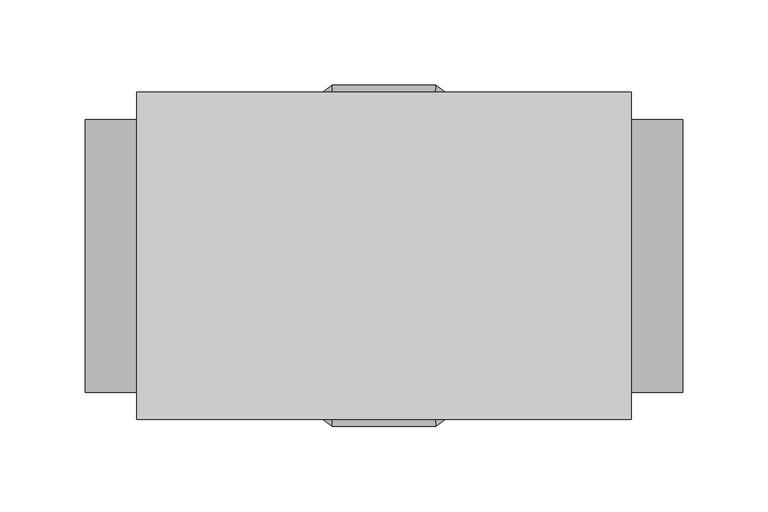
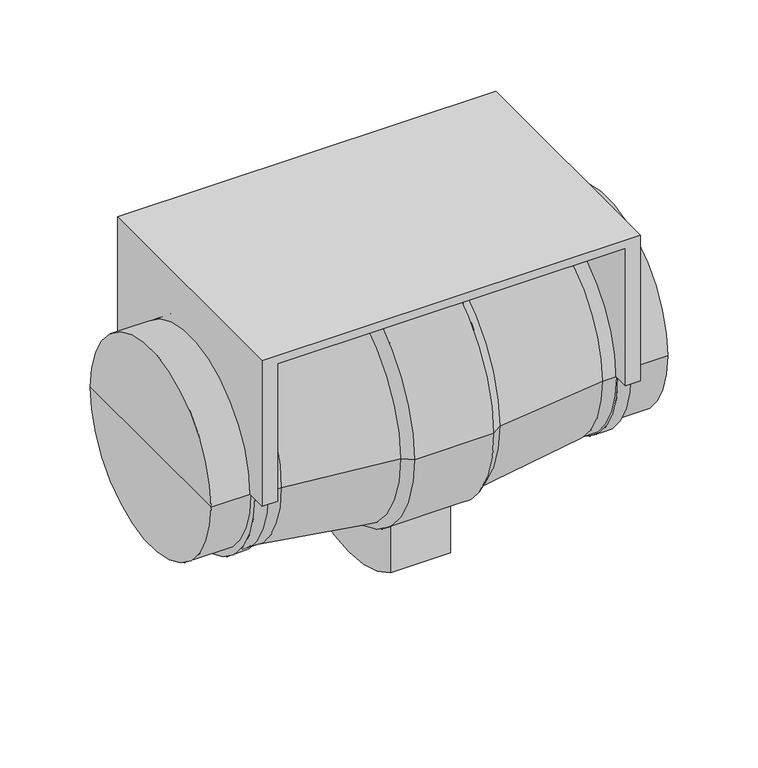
"""IFC4 building model written with IfcOpenShell, lengths in millimetres: unitary equipment geometry, VE-Wentylator-ParaForma-Harmann-ML-Nawiewny : 160/550."""

from ifc_helpers import new_model, si_unit, point, frame, origin, origin_2d, place, context, project, spatial, polyline, circle_curve, trimmed, segment, composite_curve, outline, extrude, source, transform, mapped, element, save
from ifc_brep_helpers import plane_surface, cylinder_surface, revolved_surface, advanced_brep


def unitary_equipment_5950cc30(model_context):
    return source(origin(), model_context, "Body", "SolidModel", [
        extrude(outline(composite_curve([segment(trimmed(circle_curve(origin_2d(), 80.0), [point((-80.0, 0.0))], [point((80.0, 0.0))], True, "CARTESIAN"), True, "CONTINUOUS"), segment(polyline([(80.0, 0.0), (85.0, 0.0)]), True, "CONTINUOUS"), segment(trimmed(circle_curve(origin_2d(), 85.0), [point((85.0, 0.0))], [point((-85.0, 0.0))], False, "CARTESIAN"), True, "CONTINUOUS"), segment(polyline([(-85.0, 0.0), (-80.0, 0.0)]), True, "CONTINUOUS")], self_intersect=False)), frame((134.1, 0.0, 0.0), z_axis=(1.0, 0.0, 0.0), x_axis=(0.0, 1.0, 0.0)), (0.0, 0.0, 1.0), 10.0),
        extrude(outline(composite_curve([segment(trimmed(circle_curve(origin_2d(), 80.0), [point((-80.0, 0.0))], [point((80.0, 0.0))], True, "CARTESIAN"), True, "CONTINUOUS"), segment(polyline([(80.0, 0.0), (85.0, 0.0)]), True, "CONTINUOUS"), segment(trimmed(circle_curve(origin_2d(), 85.0), [point((85.0, 0.0))], [point((-85.0, 0.0))], False, "CARTESIAN"), True, "CONTINUOUS"), segment(polyline([(-85.0, 0.0), (-80.0, 0.0)]), True, "CONTINUOUS")], self_intersect=False)), frame((-144.1, 0.0, 0.0), z_axis=(1.0, 0.0, 0.0), x_axis=(0.0, 1.0, 0.0)), (0.0, 0.0, 1.0), 10.0),
        advanced_brep(
        [(-145.0, 96.0, 0.0), (-145.0, 80.0, 0.0), (-145.0, -80.0, 0.0), (-145.0, -96.0, 0.0), (-145.0, -96.0, 118.0), (-145.0, 96.0, 118.0), (-133.3, -96.0, 0.0), (-133.3, -80.0, 0.0), (-133.3, 80.0, 0.0), (-133.3, 96.0, 0.0), (-133.3, 96.0, 111.3), (-133.3, -96.0, 111.3), (133.3, -96.0, 111.3), (133.3, 96.0, 111.3), (133.3, -96.0, 0.0), (145.0, -96.0, 0.0), (145.0, -96.0, 118.0), (145.0, 96.0, 118.0), (145.0, 96.0, 0.0), (133.3, 96.0, 0.0), (133.3, 80.0, 0.0), (133.3, -80.0, 0.0), (145.0, -80.0, 0.0), (145.0, 80.0, 0.0)],
        [
            (0, 1),
            (1, 2, circle_curve(frame((-145.0, 0.0, 0.0), z_axis=(1.0, 0.0, 0.0), x_axis=(0.0, 1.0, 0.0)), 80.0)),
            (2, 3),
            (3, 4),
            (4, 5),
            (5, 0),
            (6, 7),
            (7, 8, circle_curve(frame((-133.3, 0.0, 0.0), z_axis=(-1.0, 0.0, 0.0), x_axis=(0.0, 1.0, 0.0)), 80.0)),
            (8, 9),
            (9, 10),
            (10, 11),
            (11, 6),
            (12, 11),
            (10, 13),
            (13, 12),
            (3, 6),
            (12, 14),
            (14, 15),
            (15, 16),
            (16, 4),
            (16, 17),
            (17, 5),
            (17, 18),
            (18, 19),
            (19, 13),
            (9, 0),
            (8, 1),
            (7, 2),
            (19, 20),
            (20, 21, circle_curve(frame((133.3, 0.0, 0.0), z_axis=(1.0, 0.0, 0.0), x_axis=(0.0, 1.0, 0.0)), 80.0)),
            (21, 14),
            (15, 22),
            (22, 23, circle_curve(frame((145.0, 0.0, 0.0), z_axis=(-1.0, 0.0, 0.0), x_axis=(0.0, 1.0, 0.0)), 80.0)),
            (23, 18),
            (23, 20),
            (22, 21),
        ],
        [
            plane_surface(frame((-145.0, 0.0, 0.0), z_axis=(-1.0, 0.0, 0.0), x_axis=(0.0, 0.0, 1.0))),
            plane_surface(frame((-133.3, 0.0, 0.0), z_axis=(1.0, 0.0, 0.0), x_axis=(0.0, 0.0, 1.0))),
            plane_surface(frame((-133.3, 96.0, 111.3), z_axis=(0.0, 0.0, -1.0), x_axis=(1.0, 0.0, 0.0))),
            plane_surface(frame((-145.0, -96.0, 0.0), z_axis=(0.0, -1.0, 0.0), x_axis=(1.0, 0.0, 0.0))),
            plane_surface(frame((-145.0, -96.0, 118.0), z_axis=(0.0, 0.0, 1.0), x_axis=(1.0, 0.0, 0.0))),
            plane_surface(frame((-145.0, 96.0, 118.0), z_axis=(0.0, 1.0, 0.0), x_axis=(1.0, 0.0, 0.0))),
            plane_surface(frame((-145.0, 96.0, 0.0), z_axis=(0.0, 0.0, -1.0), x_axis=(1.0, 0.0, 0.0))),
            revolved_surface(polyline([(-133.3, 80.0, 0.0), (-145.0, 80.0, 0.0)]), (-145.0, 0.0, 0.0), (1.0, 0.0, 0.0)),
            plane_surface(frame((-145.0, -80.0, 0.0), z_axis=(0.0, 0.0, -1.0), x_axis=(1.0, 0.0, 0.0))),
            plane_surface(frame((133.3, 0.0, 0.0), z_axis=(-1.0, 0.0, 0.0), x_axis=(0.0, 0.0, 1.0))),
            plane_surface(frame((145.0, 0.0, 0.0), z_axis=(1.0, 0.0, 0.0), x_axis=(0.0, 0.0, 1.0))),
            plane_surface(frame((133.3, 96.0, 0.0), z_axis=(0.0, 0.0, -1.0), x_axis=(1.0, 0.0, 0.0))),
            revolved_surface(polyline([(145.0, 80.0, 0.0), (133.3, 80.0, 0.0)]), (133.3, 0.0, 0.0), (1.0, 0.0, 0.0)),
            plane_surface(frame((133.3, -80.0, 0.0), z_axis=(0.0, 0.0, -1.0), x_axis=(1.0, 0.0, 0.0))),
        ],
        [
            (0, [[1, 2, 3, 4, 5, 6]]),
            (1, [[7, 8, 9, 10, 11, 12]]),
            (2, [[13, -11, 14, 15]]),
            (3, [[-4, 16, -12, -13, 17, 18, 19, 20]]),
            (4, [[-5, -20, 21, 22]]),
            (5, [[-6, -22, 23, 24, 25, -14, -10, 26]]),
            (6, [[-1, -26, -9, 27]]),
            (7, [[-2, -27, -8, 28]]),
            (8, [[-3, -28, -7, -16]]),
            (9, [[29, 30, 31, -17, -15, -25]]),
            (10, [[-23, -21, -19, 32, 33, 34]]),
            (11, [[-29, -24, -34, 35]]),
            (12, [[-30, -35, -33, 36]]),
            (13, [[-31, -36, -32, -18]]),
        ],
    ),
        advanced_brep(
        [(-22.9, 55.0, -121.5), (-22.9, -55.0, -121.5), (-22.9, -55.0, -83.5164654), (-22.9, 55.0, -83.5164654), (22.9, -55.0, -121.5), (22.9, 55.0, -121.5), (22.9, 55.0, -83.5164654), (22.9, -55.0, -83.5164654), (175.0, -80.0, 0.0), (175.0, 80.0, 0.0), (175.0, 0.0, 0.0), (133.3, -80.0, 0.0), (133.3, 80.0, 0.0), (30.3, -100.0, 0.0), (30.3, 100.0, 0.0), (37.9, 94.6, 0.0), (37.9, -94.6, 0.0), (-30.3, -100.0, 0.0), (-30.3, 100.0, 0.0), (-37.9, -94.6, 0.0), (-37.9, 94.6, 0.0), (-175.0, -80.0, 0.0), (-175.0, 80.0, 0.0), (-133.3, 80.0, 0.0), (-133.3, -80.0, 0.0), (-175.0, 0.0, 0.0), (133.3, -83.9, 0.0), (133.3, 83.9, 0.0), (123.0, -83.9, 0.0), (123.0, 83.9, 0.0), (-123.0, -83.9, 0.0), (-123.0, 83.9, 0.0), (-133.3, -83.9, 0.0), (-133.3, 83.9, 0.0)],
        [
            (0, 1, circle_curve(frame((-22.9, 0.0, -37.9835346), z_axis=(-1.0, 0.0, 0.0), x_axis=(0.0, 0.999999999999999, 0.0)), 100.0)),
            (1, 2),
            (2, 3, circle_curve(frame((-22.9, 0.0, 0.0), z_axis=(1.0, 0.0, 0.0), x_axis=(0.0, 0.999999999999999, 0.0)), 100.0)),
            (3, 0),
            (4, 5, circle_curve(frame((22.9, 0.0, -37.9835346), z_axis=(1.0, 0.0, 0.0), x_axis=(0.0, 0.999999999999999, 0.0)), 100.0)),
            (5, 6),
            (6, 7, circle_curve(frame((22.9, 0.0, 0.0), z_axis=(-1.0, 0.0, 0.0), x_axis=(0.0, 0.999999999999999, 0.0)), 100.0)),
            (7, 4),
            (0, 5),
            (4, 1),
            (7, 2),
            (3, 6),
            (8, 9, circle_curve(frame((175.0, 0.0, 0.0), z_axis=(1.0, 0.0, 0.0), x_axis=(0.0, 0.999999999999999, 0.0)), 80.0)),
            (9, 10),
            (10, 8),
            (9, 8, circle_curve(frame((175.0, 0.0, 0.0), z_axis=(1.0, 0.0, 0.0), x_axis=(0.0, 0.999999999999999, 0.0)), 80.0)),
            (8, 11),
            (11, 12, circle_curve(frame((133.3, 0.0, 0.0), z_axis=(1.0, 0.0, 0.0), x_axis=(0.0, 0.999999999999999, 0.0)), 80.0)),
            (12, 9),
            (12, 11, circle_curve(frame((133.3, 0.0, 0.0), z_axis=(1.0, 0.0, 0.0), x_axis=(0.0, 0.999999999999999, 0.0)), 80.0)),
            (13, 14, circle_curve(frame((30.3, 0.0, 0.0), z_axis=(1.0, 0.0, 0.0), x_axis=(0.0, 0.999999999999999, 0.0)), 100.0)),
            (14, 15),
            (15, 16, circle_curve(frame((37.9, 0.0, 0.0), z_axis=(-1.0, 0.0, 0.0), x_axis=(0.0, 0.999999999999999, 0.0)), 94.6)),
            (16, 13),
            (14, 13, circle_curve(frame((30.3, 0.0, 0.0), z_axis=(1.0, 0.0, 0.0), x_axis=(0.0, 0.999999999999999, 0.0)), 100.0)),
            (16, 15, circle_curve(frame((37.9, 0.0, 0.0), z_axis=(-1.0, 0.0, 0.0), x_axis=(0.0, 0.999999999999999, 0.0)), 94.6)),
            (13, 17),
            (17, 18, circle_curve(frame((-30.3, 0.0, 0.0), z_axis=(1.0, 0.0, 0.0), x_axis=(0.0, 0.999999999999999, 0.0)), 100.0)),
            (18, 14),
            (18, 17, circle_curve(frame((-30.3, 0.0, 0.0), z_axis=(1.0, 0.0, 0.0), x_axis=(0.0, 0.999999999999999, 0.0)), 100.0)),
            (17, 19),
            (19, 20, circle_curve(frame((-37.9, 0.0, 0.0), z_axis=(1.0, 0.0, 0.0), x_axis=(0.0, 0.999999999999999, 0.0)), 94.6)),
            (20, 18),
            (20, 19, circle_curve(frame((-37.9, 0.0, 0.0), z_axis=(1.0, 0.0, 0.0), x_axis=(0.0, 0.999999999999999, 0.0)), 94.6)),
            (21, 22, circle_curve(frame((-175.0, 0.0, 0.0), z_axis=(1.0, 0.0, 0.0), x_axis=(0.0, 0.999999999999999, 0.0)), 80.0)),
            (22, 23),
            (23, 24, circle_curve(frame((-133.3, 0.0, 0.0), z_axis=(-1.0, 0.0, 0.0), x_axis=(0.0, 0.999999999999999, 0.0)), 80.0)),
            (24, 21),
            (22, 21, circle_curve(frame((-175.0, 0.0, 0.0), z_axis=(1.0, 0.0, 0.0), x_axis=(0.0, 0.999999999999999, 0.0)), 80.0)),
            (24, 23, circle_curve(frame((-133.3, 0.0, 0.0), z_axis=(-1.0, 0.0, 0.0), x_axis=(0.0, 0.999999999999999, 0.0)), 80.0)),
            (21, 25),
            (25, 22),
            (11, 26),
            (26, 27, circle_curve(frame((133.3, 0.0, 0.0), z_axis=(1.0, 0.0, 0.0), x_axis=(0.0, 0.999999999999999, 0.0)), 83.9)),
            (27, 12),
            (27, 26, circle_curve(frame((133.3, 0.0, 0.0), z_axis=(1.0, 0.0, 0.0), x_axis=(0.0, 0.999999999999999, 0.0)), 83.9)),
            (26, 28),
            (28, 29, circle_curve(frame((123.0, 0.0, 0.0), z_axis=(1.0, 0.0, 0.0), x_axis=(0.0, 0.999999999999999, 0.0)), 83.9)),
            (29, 27),
            (29, 28, circle_curve(frame((123.0, 0.0, 0.0), z_axis=(1.0, 0.0, 0.0), x_axis=(0.0, 0.999999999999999, 0.0)), 83.9)),
            (15, 29),
            (28, 16),
            (19, 30),
            (30, 31, circle_curve(frame((-123.0, 0.0, 0.0), z_axis=(1.0, 0.0, 0.0), x_axis=(0.0, 0.999999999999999, 0.0)), 83.9)),
            (31, 20),
            (31, 30, circle_curve(frame((-123.0, 0.0, 0.0), z_axis=(1.0, 0.0, 0.0), x_axis=(0.0, 0.999999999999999, 0.0)), 83.9)),
            (30, 32),
            (32, 33, circle_curve(frame((-133.3, 0.0, 0.0), z_axis=(1.0, 0.0, 0.0), x_axis=(0.0, 0.999999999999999, 0.0)), 83.9)),
            (33, 31),
            (33, 32, circle_curve(frame((-133.3, 0.0, 0.0), z_axis=(1.0, 0.0, 0.0), x_axis=(0.0, 0.999999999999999, 0.0)), 83.9)),
            (23, 33),
            (32, 24),
        ],
        [
            plane_surface(frame((-22.9, 0.0, 0.0), z_axis=(-1.0, 0.0, 0.0), x_axis=(0.0, 0.0, 1.0))),
            plane_surface(frame((22.9, 0.0, 0.0), z_axis=(1.0, 0.0, 0.0), x_axis=(0.0, 0.0, 1.0))),
            cylinder_surface(frame((-22.9, 0.0, -37.9835346), z_axis=(-0.9999999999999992, 0.0, 0.0), x_axis=(0.0, 0.999999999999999, 0.0)), 100.0),
            plane_surface(frame((-22.9, -55.0, -121.5), z_axis=(0.0, -1.0, 0.0), x_axis=(1.0, 0.0, 0.0))),
            plane_surface(frame((-22.9, 55.0, 0.0), z_axis=(0.0, 1.0, 0.0), x_axis=(1.0, 0.0, 0.0))),
            plane_surface(frame((175.0, 0.0, 0.0), z_axis=(1.0, 0.0, 0.0), x_axis=(0.0, 1.0, 0.0))),
            cylinder_surface(frame((-175.0, 0.0, 0.0), z_axis=(-0.9999999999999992, 0.0, 0.0), x_axis=(0.0, 0.999999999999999, 0.0)), 80.0),
            revolved_surface(polyline([(37.9, 94.6, 0.0), (30.3, 100.0, 0.0)]), (-175.0, 0.0, 0.0), (-0.9999999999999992, 0.0, 0.0)),
            cylinder_surface(frame((-175.0, 0.0, 0.0), z_axis=(-0.9999999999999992, 0.0, 0.0), x_axis=(0.0, 0.999999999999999, 0.0)), 100.0),
            revolved_surface(polyline([(-30.3, 100.0, 0.0), (-37.9, 94.6, 0.0)]), (-175.0, 0.0, 0.0), (-0.9999999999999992, 0.0, 0.0)),
            plane_surface(frame((-175.0, 0.0, 0.0), z_axis=(-1.0, 0.0, 0.0), x_axis=(0.0, 1.0, 0.0))),
            plane_surface(frame((133.3, 0.0, 0.0), z_axis=(1.0, 0.0, 0.0), x_axis=(0.0, 1.0, 0.0))),
            cylinder_surface(frame((-175.0, 0.0, 0.0), z_axis=(-0.9999999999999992, 0.0, 0.0), x_axis=(0.0, 0.999999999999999, 0.0)), 83.9),
            revolved_surface(polyline([(123.0, 83.9, 0.0), (37.9, 94.6, 0.0)]), (-175.0, 0.0, 0.0), (-0.9999999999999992, 0.0, 0.0)),
            revolved_surface(polyline([(-37.9, 94.6, 0.0), (-123.0, 83.9, 0.0)]), (-175.0, 0.0, 0.0), (-0.9999999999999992, 0.0, 0.0)),
            plane_surface(frame((-133.3, 0.0, 0.0), z_axis=(-1.0, 0.0, 0.0), x_axis=(0.0, 1.0, 0.0))),
        ],
        [
            (0, [[1, 2, 3, 4]]),
            (1, [[5, 6, 7, 8]]),
            (2, [[-1, 9, -5, 10]]),
            (3, [[-10, -8, 11, -2]]),
            (4, [[-9, -4, 12, -6]]),
            (5, [[13, 14, 15]]),
            (5, [[-14, 16, -15]]),
            (6, [[-13, 17, 18, 19]]),
            (6, [[-16, -19, 20, -17]]),
            (7, [[21, 22, 23, 24]]),
            (7, [[-22, 25, -24, 26]]),
            (8, [[-21, 27, 28, 29], [-3, -11, -7, -12]]),
            (8, [[-25, -29, 30, -27]]),
            (9, [[-28, 31, 32, 33]]),
            (9, [[-30, -33, 34, -31]]),
            (6, [[35, 36, 37, 38]]),
            (6, [[-36, 39, -38, 40]]),
            (10, [[-35, 41, 42]]),
            (10, [[-39, -42, -41]]),
            (11, [[-18, 43, 44, 45]]),
            (11, [[-20, -45, 46, -43]]),
            (12, [[-44, 47, 48, 49]]),
            (12, [[-46, -49, 50, -47]]),
            (13, [[-23, 51, -48, 52]]),
            (13, [[-26, -52, -50, -51]]),
            (14, [[-32, 53, 54, 55]]),
            (14, [[-34, -55, 56, -53]]),
            (12, [[-54, 57, 58, 59]]),
            (12, [[-56, -59, 60, -57]]),
            (15, [[-37, 61, -58, 62]]),
            (15, [[-40, -62, -60, -61]]),
        ],
    ),
    ])


if __name__ == "__main__":
    model = new_model("IFC4")
    model_context = context("Model", 3, world=origin())
    ifc_project = project(units=[si_unit("LENGTHUNIT", "METRE", prefix="MILLI")], contexts=[model_context])
    site = spatial("IfcSite", under=ifc_project)
    building = spatial("IfcBuilding", under=site)
    placement = place(None, origin())
    unitary_equipment_shape = unitary_equipment_5950cc30(model_context)
    element("IfcUnitaryEquipment", 1, ObjectType="VE-Wentylator-ParaForma-Harmann-ML-Nawiewny : 160/550", at=placement, inside=building, context=model_context, shape_type="MappedRepresentation", body=[
        mapped(unitary_equipment_shape, transform((0.0, 0.0, 0.0), x_axis=(1.0, 0.0, 0.0), y_axis=(0.0, 1.0, 0.0), z_axis=(0.0, 0.0, 1.0))),
    ])
    save(model, "model.ifc")
